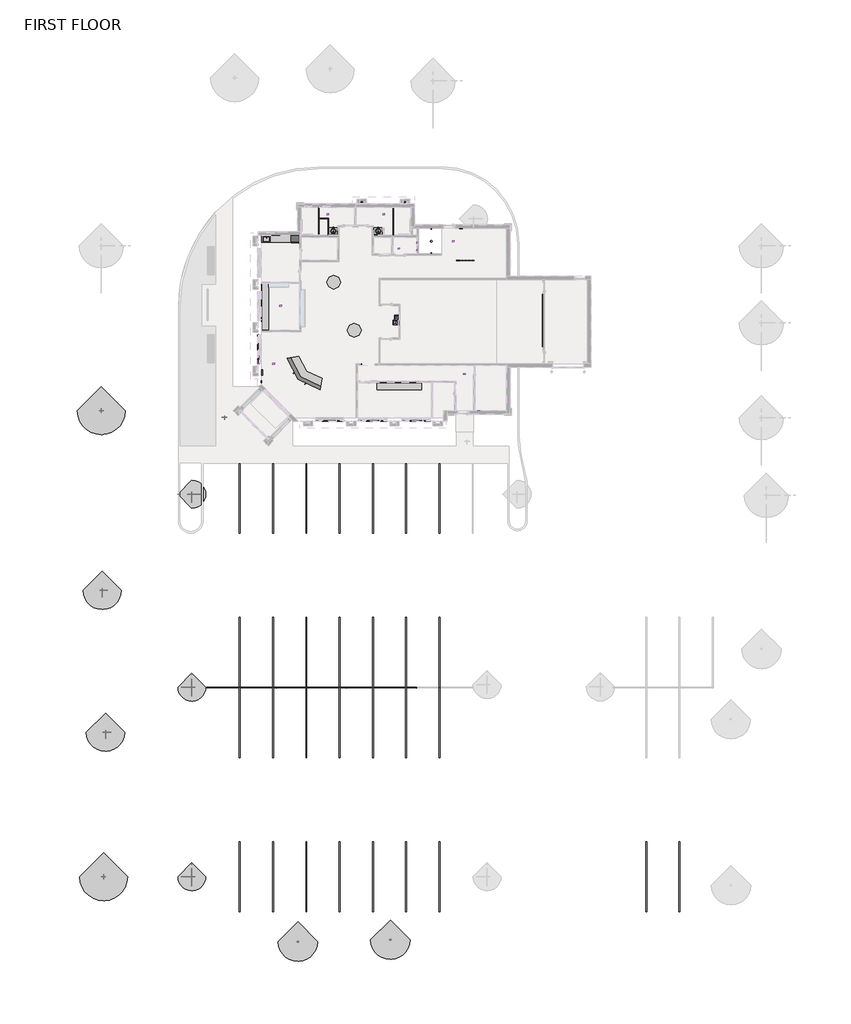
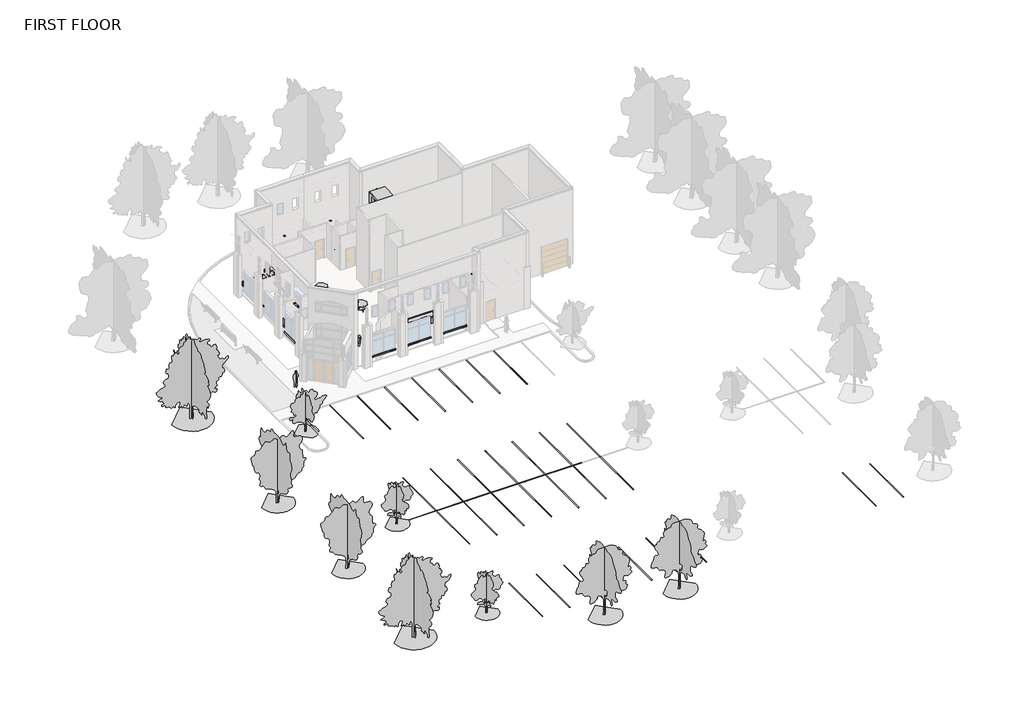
# One storey, part 6 of 7: 42 geographic elements, 15 furniture elements, 15 proxies, 11 alarms, 4 flow terminals, 2 columns, 2 railings.
"""IFC4 building model written with IfcOpenShell, lengths in millimetres."""

from ifc_helpers import new_model, si_unit, point, frame, frame_2d, origin, place, context, project, spatial, polyline, circle_curve, trimmed, segment, composite_curve, outline, extrude, transform, mapped, element, save
from components import alarm_b003a3a8, alarm_15cd_51c740ec, photoelectric_866833d5, pull_station_a674f03b, specialty_equipment_692675cb, default_171b59b4, default_4243144b, elevator_electric_2000_lbs_4744baa0, proxy_52898018, projection_screen_with_parametric_screen_4857_projection_ff3bfefe, rpc_male_28878092, proxy_52aa913c, proxy_4080196a, proxy_b54b38c5, proxy_e74a4aad, proxy_a965dae9, flow_terminal_8a1848b0, flow_terminal_50ef5554, flow_terminal_951b6bfb, furniture_81c1c4d7, furniture_c0b19bce, furniture_e9891702, furniture_2ac01a90, furniture_69c8b165, furniture_e487f748, furniture_dc82221e, curved_reception_counter_short_curved_reception_counter_620d5c6e, pavement_stripe_20_9c478066, pavement_stripe_20_eeeff9bc, rpc_tree_deciduous_honey_locust_25_cc46a1f1, rpc_tree_deciduous_japanese_cherry_15_e499737d, rpc_tree_deciduous_largetooth_aspen_25_f6cd7aa4, rpc_tree_deciduous_red_maple_30_cba750cc, handrail_rectangular_f7c7f1c9, handrail_rectangular_457fed54

model = new_model("IFC4")

# Units and contexts
model_context = context("Model", 3, world=origin())
ifc_project = project(units=[si_unit("LENGTHUNIT", "METRE", prefix="MILLI")], contexts=[model_context])

# Site, building, storey
site = spatial("IfcSite", under=ifc_project)
building = spatial("IfcBuilding", under=site)
storey = spatial("IfcBuildingStorey", under=building, Name="FIRST FLOOR", Elevation=30480.0)

# Alarms
placement = place(None, origin())
alarm_shape = alarm_b003a3a8(model_context)
element("IfcAlarm", 1, ObjectType="FireBIM Tutorial Addressable Module (Wall) : Addressable Input Output", at=placement, inside=storey, context=model_context, shape_type="MappedRepresentation", body=[
    mapped(alarm_shape, transform((-2967.147753, 9258.4260405, 32613.6), x_axis=(0.0, -1.0, 0.0), y_axis=(0.0, 0.0, 1.0), z_axis=(-1.0, 0.0, 0.0))),
])
element("IfcAlarm", 2, ObjectType="FireBIM Tutorial Addressable Module (Wall) : Addressable Input Output", at=placement, inside=storey, context=model_context, shape_type="MappedRepresentation", body=[
    mapped(alarm_shape, transform((-2967.147753, 8613.9010405, 32613.6), x_axis=(0.0, -1.0, 0.0), y_axis=(0.0, 0.0, 1.0), z_axis=(-1.0, 0.0, 0.0))),
])
element("IfcAlarm", 3, ObjectType="FireBIM Tutorial Addressable Module (Wall) : Addressable Input Output", at=placement, inside=storey, context=model_context, shape_type="MappedRepresentation", body=[
    mapped(alarm_shape, transform((2400.189747, -5343.3989595, 32613.6), x_axis=(-1.0, 0.0, 0.0), y_axis=(0.0, 0.0, 1.0), z_axis=(0.0, 1.0, 0.0))),
])
alarm_15cd_shape = alarm_15cd_51c740ec(model_context)
element("IfcAlarm", 4, ObjectType="FireBIM Tutorial Strobe (Ceiling) : 15cd", at=placement, inside=storey, context=model_context, shape_type="MappedRepresentation", body=[
    mapped(alarm_15cd_shape, transform((-14854.347753, 3778.3760405, 33528.0), x_axis=(-1.0, 0.0, 0.0), y_axis=(0.0, 1.0, 0.0), z_axis=(0.0, 0.0, -1.0))),
])
element("IfcAlarm", 5, ObjectType="FireBIM Tutorial Strobe (Ceiling) : 15cd", at=placement, inside=storey, context=model_context, shape_type="MappedRepresentation", body=[
    mapped(alarm_15cd_shape, transform((-10730.022753, 11733.3385405, 33528.0), x_axis=(-1.0, 0.0, 0.0), y_axis=(0.0, 1.0, 0.0), z_axis=(0.0, 0.0, -1.0))),
])
element("IfcAlarm", 6, ObjectType="FireBIM Tutorial Strobe (Ceiling) : 15cd", at=placement, inside=storey, context=model_context, shape_type="MappedRepresentation", body=[
    mapped(alarm_15cd_shape, transform((-5864.335253, 11733.3385405, 33528.0), x_axis=(-1.0, 0.0, 0.0), y_axis=(0.0, 1.0, 0.0), z_axis=(0.0, 0.0, -1.0))),
])
element("IfcAlarm", 7, ObjectType="FireBIM Tutorial Strobe (Ceiling) : 15cd", at=placement, inside=storey, context=model_context, shape_type="MappedRepresentation", body=[
    mapped(alarm_15cd_shape, transform((1147.652247, -2154.1114595, 33528.0), x_axis=(-1.0, 0.0, 0.0), y_axis=(0.0, 1.0, 0.0), z_axis=(0.0, 0.0, -1.0))),
])
photoelectric_shape = photoelectric_866833d5(model_context)
element("IfcAlarm", 8, ObjectType="FireBIM Tutorial Smoke Detector (Ceiling) : Photoelectric", at=placement, inside=storey, context=model_context, shape_type="MappedRepresentation", body=[
    mapped(photoelectric_shape, transform((-4564.172753, 8753.6010405, 33528.0), x_axis=(-1.0, 0.0, 0.0), y_axis=(0.0, 1.0, 0.0), z_axis=(0.0, 0.0, -1.0))),
])
element("IfcAlarm", 9, ObjectType="FireBIM Tutorial Smoke Detector (Ceiling) : Photoelectric", at=placement, inside=storey, context=model_context, shape_type="MappedRepresentation", body=[
    mapped(photoelectric_shape, transform((168.164747, 9388.6010405, 34290.0), x_axis=(-1.0, 0.0, 0.0), y_axis=(0.0, 1.0, 0.0), z_axis=(0.0, 0.0, -1.0))),
])
element("IfcAlarm", 10, ObjectType="FireBIM Tutorial Smoke Detector (Ceiling) : Photoelectric", at=placement, inside=storey, context=model_context, shape_type="MappedRepresentation", body=[
    mapped(photoelectric_shape, transform((-15452.835253, -1279.3989595, 34290.0), x_axis=(-1.0, 0.0, 0.0), y_axis=(0.0, 1.0, 0.0), z_axis=(0.0, 0.0, -1.0))),
])
pull_station_shape = pull_station_a674f03b(model_context)
element("IfcAlarm", 11, ObjectType="FireBIM Tutorial Manual Fire Alarm Box (Wall) : Pull Station", at=placement, inside=storey, context=model_context, shape_type="MappedRepresentation", body=[
    mapped(pull_station_shape, transform((-16519.635253, -2825.6239595, 31623.0), x_axis=(0.0, 1.0, 0.0), y_axis=(0.0, 0.0, 1.0), z_axis=(1.0, 0.0, 0.0))),
])

# Proxies
specialty_equipment_shape = specialty_equipment_692675cb(model_context)
element("IfcBuildingElementProxy", 12, Name="Refridgerator_with_freezer_on_top_198 : Refridgerator_with_freezer_on_top_198", ObjectType="Refridgerator_with_freezer_on_top_198 : Refridgerator_with_freezer_on_top_198", at=placement, inside=storey, context=model_context, shape_type="MappedRepresentation", body=[
    mapped(specialty_equipment_shape, transform((-13951.060253, 9896.6010405, 30480.0), x_axis=(0.0, -1.0000000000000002, 0.0), y_axis=(1.0000000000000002, 0.0, 0.0), z_axis=(0.0, 0.0, 1.0))),
])
default_shape = default_171b59b4(model_context)
element("IfcBuildingElementProxy", 13, Name="FireBIM Tutorial Control Unit : Default", ObjectType="FireBIM Tutorial Control Unit : Default", at=placement, inside=storey, context=model_context, shape_type="MappedRepresentation", body=[
    mapped(default_shape, transform((-16519.635253, -2025.5239595, 31699.2), x_axis=(0.0, 1.0, 0.0), y_axis=(0.0, 0.0, 1.0), z_axis=(1.0, 0.0, 0.0))),
])
default_2_shape = default_4243144b(model_context)
element("IfcBuildingElementProxy", 14, Name="FireBIM Tutorial Annunciator : Default", ObjectType="FireBIM Tutorial Annunciator : Default", at=placement, inside=storey, context=model_context, shape_type="MappedRepresentation", body=[
    mapped(default_2_shape, transform((828.564747, 10506.2010405, 31699.2), x_axis=(1.0, 0.0, 0.0), y_axis=(0.0, 0.0, 1.0), z_axis=(0.0, -1.0, 0.0))),
])
elevator_electric_2000_lbs_shape = elevator_electric_2000_lbs_4744baa0(model_context)
element("IfcBuildingElementProxy", 15, Name="Elevator-Electric : 2000 lbs", ObjectType="Elevator-Electric : 2000 lbs", at=placement, inside=storey, context=model_context, shape_type="MappedRepresentation", body=[
    mapped(elevator_electric_2000_lbs_shape, transform((-1688.8570793, 9381.154044, 30480.0), x_axis=(0.0, 1.0, 0.0), y_axis=(-1.0, 0.0, 0.0), z_axis=(0.0, 0.0, 1.0))),
])
proxy_shape = proxy_52898018(model_context)
element("IfcBuildingElementProxy", 16, Name="Opening-Cased : 48\" x 84\"", ObjectType="Opening-Cased : 48\" x 84\"", at=placement, inside=storey, context=model_context, shape_type="MappedRepresentation", body=[
    mapped(proxy_shape, transform((-7222.9840963, -1341.3114595, 30480.0), x_axis=(1.0, 0.0, 0.0), y_axis=(0.0, 1.0, 0.0), z_axis=(0.0, 0.0, 1.0))),
])
projection_screen_with_parametric_screen_4857_projection_shape = projection_screen_with_parametric_screen_4857_projection_ff3bfefe(model_context)
element("IfcBuildingElementProxy", 17, Name="Projection_Screen_with_parametric_screen_4857 : Projection_Screen_with_parametric_screen_4857", ObjectType="Projection_Screen_with_parametric_screen_4857 : Projection_Screen_with_parametric_screen_4857", at=placement, inside=storey, context=model_context, shape_type="MappedRepresentation", body=[
    mapped(projection_screen_with_parametric_screen_4857_projection_shape, transform((7889.4315444, 2505.2010405, 30632.4), x_axis=(0.0, 1.0, 0.0), y_axis=(-1.0, 0.0, 0.0), z_axis=(0.0, 0.0, 1.0))),
])
rpc_male_shape = rpc_male_28878092(model_context)
element("IfcBuildingElementProxy", 18, Name="RPC Male : Dwayne", ObjectType="RPC Male : Dwayne", at=placement, inside=storey, context=model_context, shape_type="MappedRepresentation", body=[
    mapped(rpc_male_shape, transform((-19742.3830365, -5937.1239595, 30480.0), x_axis=(1.0, 0.0, 0.0), y_axis=(0.0, 1.0, 0.0), z_axis=(0.0, 0.0, 1.0))),
])
proxy_2_shape = proxy_52aa913c(model_context)
element("IfcBuildingElementProxy", 19, Name="Stone Sill : 2' x 8\" x 3 5/8\" Deep", ObjectType="Stone Sill : 2' x 8\" x 3 5/8\" Deep", at=placement, inside=storey, context=model_context, shape_type="MappedRepresentation", body=[
    mapped(proxy_2_shape, transform((-16673.80834, -1538.0040395, 33419.5320312), x_axis=(0.0, 1.0, 0.0), y_axis=(-1.0, 0.0, 0.0), z_axis=(0.0, 0.0, 1.0))),
])
proxy_3_shape = proxy_4080196a(model_context)
element("IfcBuildingElementProxy", 20, Name="Stone Sill : 4' x 8\" x 3 5/8\" Deep", ObjectType="Stone Sill : 4' x 8\" x 3 5/8\" Deep", at=placement, inside=storey, context=model_context, shape_type="MappedRepresentation", body=[
    mapped(proxy_3_shape, transform((-16673.80834, -623.5989595, 29101.5320313), x_axis=(0.0, 1.0, 0.0), y_axis=(-1.0, 0.0, 0.0), z_axis=(0.0, 0.0, 1.0))),
])
element("IfcBuildingElementProxy", 21, Name="Stone Sill : 4' x 8\" x 3 5/8\" Deep", ObjectType="Stone Sill : 4' x 8\" x 3 5/8\" Deep", at=placement, inside=storey, context=model_context, shape_type="MappedRepresentation", body=[
    mapped(proxy_3_shape, transform((-9961.835253, -6107.1720464, 29100.7382813), x_axis=(-1.0, 0.0, 0.0), y_axis=(0.0, -1.0, 0.0), z_axis=(0.0, 0.0, 1.0))),
])
element("IfcBuildingElementProxy", 22, Name="Stone Sill : 4' x 8\" x 3 5/8\" Deep", ObjectType="Stone Sill : 4' x 8\" x 3 5/8\" Deep", at=placement, inside=storey, context=model_context, shape_type="MappedRepresentation", body=[
    mapped(proxy_3_shape, transform((-6202.645413, -6107.1720464, 29100.7382813), x_axis=(-1.0, 0.0, 0.0), y_axis=(0.0, -1.0, 0.0), z_axis=(0.0, 0.0, 1.0))),
])
element("IfcBuildingElementProxy", 23, Name="Stone Sill : 4' x 8\" x 3 5/8\" Deep", ObjectType="Stone Sill : 4' x 8\" x 3 5/8\" Deep", at=placement, inside=storey, context=model_context, shape_type="MappedRepresentation", body=[
    mapped(proxy_3_shape, transform((-2443.445413, -6107.1720464, 29100.7382813), x_axis=(-1.0, 0.0, 0.0), y_axis=(0.0, -1.0, 0.0), z_axis=(0.0, 0.0, 1.0))),
])
proxy_4_shape = proxy_b54b38c5(model_context)
element("IfcBuildingElementProxy", 24, Name="Toilet Stall-Accessible-Side2-3D : 60\" x 96\" Clear", ObjectType="Toilet Stall-Accessible-Side2-3D : 60\" x 96\" Clear", at=placement, inside=storey, context=model_context, shape_type="MappedRepresentation", body=[
    mapped(proxy_4_shape, transform((-12203.1320992, 9820.4010405, 30480.0), x_axis=(-1.0, 0.0, 0.0), y_axis=(0.0, -1.0, 0.0), z_axis=(0.0, 0.0, 1.0))),
])
proxy_5_shape = proxy_e74a4aad(model_context)
element("IfcBuildingElementProxy", 25, Name="Toilet Stall-Accessible-Side2-3D : 60\" x 96\" Clear", ObjectType="Toilet Stall-Accessible-Side2-3D : 60\" x 96\" Clear", at=placement, inside=storey, context=model_context, shape_type="MappedRepresentation", body=[
    mapped(proxy_5_shape, transform((-4376.9384068, 9820.4010405, 30480.0), x_axis=(1.0, 0.0, 0.0), y_axis=(0.0, 1.0, 0.0), z_axis=(0.0, 0.0, 1.0))),
])
proxy_6_shape = proxy_a965dae9(model_context)
element("IfcBuildingElementProxy", 26, Name="Toilet Stall-Braced-3D : 32\" x 56\" Clear", ObjectType="Toilet Stall-Braced-3D : 32\" x 56\" Clear", at=placement, inside=storey, context=model_context, shape_type="MappedRepresentation", body=[
    mapped(proxy_6_shape, transform((-10704.5320992, 9820.4010405, 30480.0), x_axis=(-1.0, 0.0, 0.0), y_axis=(0.0, -1.0, 0.0), z_axis=(0.0, 0.0, 1.0))),
])

# Columns
element("IfcColumn", 27, ObjectType="HSS-Hollow Structural Section-Column : HSS6X6X1/2", at=placement, inside=storey, context=model_context, shape_type="SweptSolid", body=[
    extrude(outline(composite_curve([segment(trimmed(circle_curve(frame_2d((-7834.5907105, 12688.815103)), 23.6140625), [point((-7834.5907105, 12665.2010405))], [point((-7858.204773, 12688.815103))], False, "CARTESIAN"), True, "CONTINUOUS"), segment(polyline([(-7858.204773, 12688.815103), (-7858.204773, 12793.986978)]), True, "CONTINUOUS"), segment(trimmed(circle_curve(frame_2d((-7834.5907105, 12793.986978)), 23.6140625), [point((-7858.204773, 12793.986978))], [point((-7834.5907105, 12817.6010405))], False, "CARTESIAN"), True, "CONTINUOUS"), segment(polyline([(-7834.5907105, 12817.6010405), (-7729.4188355, 12817.6010405)]), True, "CONTINUOUS"), segment(trimmed(circle_curve(frame_2d((-7729.4188355, 12793.986978)), 23.6140625), [point((-7729.4188355, 12817.6010405))], [point((-7705.804773, 12793.986978))], False, "CARTESIAN"), True, "CONTINUOUS"), segment(polyline([(-7705.804773, 12793.986978), (-7705.804773, 12688.815103)]), True, "CONTINUOUS"), segment(trimmed(circle_curve(frame_2d((-7729.4188355, 12688.815103)), 23.6140625), [point((-7705.804773, 12688.815103))], [point((-7729.4188355, 12665.2010405))], False, "CARTESIAN"), True, "CONTINUOUS"), segment(polyline([(-7729.4188355, 12665.2010405), (-7834.5907105, 12665.2010405)]), True, "CONTINUOUS")], self_intersect=False), holes=[composite_curve([segment(polyline([(-7834.5907105, 12677.0080718), (-7729.4188355, 12677.0080718)]), True, "CONTINUOUS"), segment(trimmed(circle_curve(frame_2d((-7729.4188355, 12688.815103)), 11.8070313), [point((-7729.4188355, 12677.0080718))], [point((-7717.6118043, 12688.815103))], True, "CARTESIAN"), True, "CONTINUOUS"), segment(polyline([(-7717.6118043, 12688.815103), (-7717.6118043, 12793.986978)]), True, "CONTINUOUS"), segment(trimmed(circle_curve(frame_2d((-7729.4188355, 12793.986978)), 11.8070313), [point((-7717.6118043, 12793.986978))], [point((-7729.4188355, 12805.7940093))], True, "CARTESIAN"), True, "CONTINUOUS"), segment(polyline([(-7729.4188355, 12805.7940093), (-7834.5907105, 12805.7940093)]), True, "CONTINUOUS"), segment(trimmed(circle_curve(frame_2d((-7834.5907105, 12793.986978)), 11.8070312), [point((-7834.5907105, 12805.7940093))], [point((-7846.3977418, 12793.986978))], True, "CARTESIAN"), True, "CONTINUOUS"), segment(polyline([(-7846.3977418, 12793.986978), (-7846.3977418, 12688.815103)]), True, "CONTINUOUS"), segment(trimmed(circle_curve(frame_2d((-7834.5907105, 12688.815103)), 11.8070312), [point((-7846.3977418, 12688.815103))], [point((-7834.5907105, 12677.0080718))], True, "CARTESIAN"), True, "CONTINUOUS")], self_intersect=False)]), frame((0.0, 0.0, 30480.0), z_axis=(0.0, 0.0, 1.0), x_axis=(1.0, 0.0, 0.0)), (0.0, 0.0, 1.0), 6553.2),
])
element("IfcColumn", 28, ObjectType="HSS-Hollow Structural Section-Column : HSS6X6X1/2", at=placement, inside=storey, context=model_context, shape_type="SweptSolid", body=[
    extrude(outline(composite_curve([segment(trimmed(circle_curve(frame_2d((-4075.3907105, 12688.815103)), 23.6140625), [point((-4075.3907105, 12665.2010405))], [point((-4099.004773, 12688.815103))], False, "CARTESIAN"), True, "CONTINUOUS"), segment(polyline([(-4099.004773, 12688.815103), (-4099.004773, 12793.986978)]), True, "CONTINUOUS"), segment(trimmed(circle_curve(frame_2d((-4075.3907105, 12793.986978)), 23.6140625), [point((-4099.004773, 12793.986978))], [point((-4075.3907105, 12817.6010405))], False, "CARTESIAN"), True, "CONTINUOUS"), segment(polyline([(-4075.3907105, 12817.6010405), (-3970.2188355, 12817.6010405)]), True, "CONTINUOUS"), segment(trimmed(circle_curve(frame_2d((-3970.2188355, 12793.986978)), 23.6140625), [point((-3970.2188355, 12817.6010405))], [point((-3946.604773, 12793.986978))], False, "CARTESIAN"), True, "CONTINUOUS"), segment(polyline([(-3946.604773, 12793.986978), (-3946.604773, 12688.815103)]), True, "CONTINUOUS"), segment(trimmed(circle_curve(frame_2d((-3970.2188355, 12688.815103)), 23.6140625), [point((-3946.604773, 12688.815103))], [point((-3970.2188355, 12665.2010405))], False, "CARTESIAN"), True, "CONTINUOUS"), segment(polyline([(-3970.2188355, 12665.2010405), (-4075.3907105, 12665.2010405)]), True, "CONTINUOUS")], self_intersect=False), holes=[composite_curve([segment(polyline([(-4075.3907105, 12677.0080718), (-3970.2188355, 12677.0080718)]), True, "CONTINUOUS"), segment(trimmed(circle_curve(frame_2d((-3970.2188355, 12688.815103)), 11.8070313), [point((-3970.2188355, 12677.0080718))], [point((-3958.4118043, 12688.815103))], True, "CARTESIAN"), True, "CONTINUOUS"), segment(polyline([(-3958.4118043, 12688.815103), (-3958.4118043, 12793.986978)]), True, "CONTINUOUS"), segment(trimmed(circle_curve(frame_2d((-3970.2188355, 12793.986978)), 11.8070313), [point((-3958.4118043, 12793.986978))], [point((-3970.2188355, 12805.7940093))], True, "CARTESIAN"), True, "CONTINUOUS"), segment(polyline([(-3970.2188355, 12805.7940093), (-4075.3907105, 12805.7940093)]), True, "CONTINUOUS"), segment(trimmed(circle_curve(frame_2d((-4075.3907105, 12793.986978)), 11.8070312), [point((-4075.3907105, 12805.7940093))], [point((-4087.1977418, 12793.986978))], True, "CARTESIAN"), True, "CONTINUOUS"), segment(polyline([(-4087.1977418, 12793.986978), (-4087.1977418, 12688.815103)]), True, "CONTINUOUS"), segment(trimmed(circle_curve(frame_2d((-4075.3907105, 12688.815103)), 11.8070312), [point((-4087.1977418, 12688.815103))], [point((-4075.3907105, 12677.0080718))], True, "CARTESIAN"), True, "CONTINUOUS")], self_intersect=False)]), frame((0.0, 0.0, 30480.0), z_axis=(0.0, 0.0, 1.0), x_axis=(1.0, 0.0, 0.0)), (0.0, 0.0, 1.0), 6553.2),
])

# Flow terminals
flow_terminal_shape = flow_terminal_8a1848b0(model_context)
element("IfcFlowTerminal", 29, ObjectType="Drinking Fountain-Hi-Lo-3D : Drinking Fountain-Hi-Lo-3D", at=placement, inside=storey, context=model_context, shape_type="MappedRepresentation", body=[
    mapped(flow_terminal_shape, transform((-4502.260253, 2508.9574863, 30480.0), x_axis=(0.0, -1.0, 0.0), y_axis=(1.0, 0.0, 0.0), z_axis=(0.0, 0.0, 1.0))),
])
flow_terminal_2_shape = flow_terminal_50ef5554(model_context)
element("IfcFlowTerminal", 30, ObjectType="Sink Kitchen-Single : 24\" x 21\"", at=placement, inside=storey, context=model_context, shape_type="MappedRepresentation", body=[
    mapped(flow_terminal_2_shape, transform((-16090.8244936, 9598.9501594, 30480.0), x_axis=(1.0000000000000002, 0.0, 0.0), y_axis=(0.0, 1.0000000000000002, 0.0), z_axis=(0.0, 0.0, 1.0))),
])
flow_terminal_3_shape = flow_terminal_951b6bfb(model_context)
element("IfcFlowTerminal", 31, ObjectType="Sink Vanity-Round : 19\" x 19\"", at=placement, inside=storey, context=model_context, shape_type="MappedRepresentation", body=[
    mapped(flow_terminal_3_shape, transform((-10355.1808265, 10338.1331785, 30480.0), x_axis=(1.0000000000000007, 0.0, 0.0), y_axis=(0.0, 1.0000000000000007, 0.0), z_axis=(0.0, 0.0, 1.0))),
])
element("IfcFlowTerminal", 32, ObjectType="Sink Vanity-Round : 19\" x 19\"", at=placement, inside=storey, context=model_context, shape_type="MappedRepresentation", body=[
    mapped(flow_terminal_3_shape, transform((-6453.1058265, 10338.1331785, 30480.0), x_axis=(1.0000000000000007, 0.0, 0.0), y_axis=(0.0, 1.0000000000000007, 0.0), z_axis=(0.0, 0.0, 1.0))),
])

# Furniture
furniture_shape = furniture_81c1c4d7(model_context)
element("IfcFurniture", 33, ObjectType="Base Cabinet-Double Door & 2 Drawer : 30\"", at=placement, inside=storey, context=model_context, shape_type="MappedRepresentation", body=[
    mapped(furniture_shape, transform((-4484.8381257, -2898.6489595, 30480.0), x_axis=(-1.0, 0.0, 0.0), y_axis=(0.0, -1.0, 0.0), z_axis=(0.0, 0.0, 1.0))),
])
element("IfcFurniture", 34, ObjectType="Base Cabinet-Double Door & 2 Drawer : 30\"", at=placement, inside=storey, context=model_context, shape_type="MappedRepresentation", body=[
    mapped(furniture_shape, transform((-5246.8381257, -2898.6489595, 30480.0), x_axis=(-1.0, 0.0, 0.0), y_axis=(0.0, -1.0, 0.0), z_axis=(0.0, 0.0, 1.0))),
])
element("IfcFurniture", 35, ObjectType="Base Cabinet-Double Door & 2 Drawer : 30\"", at=placement, inside=storey, context=model_context, shape_type="MappedRepresentation", body=[
    mapped(furniture_shape, transform((-6008.8381257, -2898.6489595, 30480.0), x_axis=(-1.0, 0.0, 0.0), y_axis=(0.0, -1.0, 0.0), z_axis=(0.0, 0.0, 1.0))),
])
element("IfcFurniture", 36, ObjectType="Base Cabinet-Double Door & 2 Drawer : 30\"", at=placement, inside=storey, context=model_context, shape_type="MappedRepresentation", body=[
    mapped(furniture_shape, transform((-2960.8381257, -2898.6489595, 30480.0), x_axis=(-1.0, 0.0, 0.0), y_axis=(0.0, -1.0, 0.0), z_axis=(0.0, 0.0, 1.0))),
])
element("IfcFurniture", 37, ObjectType="Base Cabinet-Double Door & 2 Drawer : 30\"", at=placement, inside=storey, context=model_context, shape_type="MappedRepresentation", body=[
    mapped(furniture_shape, transform((-3722.8381257, -2898.6489595, 30480.0), x_axis=(-1.0, 0.0, 0.0), y_axis=(0.0, -1.0, 0.0), z_axis=(0.0, 0.0, 1.0))),
])
furniture_2_shape = furniture_c0b19bce(model_context)
element("IfcFurniture", 38, ObjectType="Counter Top : 24\" Depth", at=placement, inside=storey, context=model_context, shape_type="MappedRepresentation", body=[
    mapped(furniture_2_shape, transform((-15319.1729579, 9906.1260405, 30480.0), x_axis=(1.0000000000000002, 0.0, 0.0), y_axis=(0.0, 1.0000000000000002, 0.0), z_axis=(0.0, 0.0, 1.0))),
])
furniture_3_shape = furniture_e9891702(model_context)
element("IfcFurniture", 39, ObjectType="Counter Top : 24\" Depth", at=placement, inside=storey, context=model_context, shape_type="MappedRepresentation", body=[
    mapped(furniture_3_shape, transform((-16519.635253, 2845.2383356, 30480.0), x_axis=(0.0, 1.0, 0.0), y_axis=(-1.0, 0.0, 0.0), z_axis=(0.0, 0.0, 1.0))),
])
furniture_4_shape = furniture_2ac01a90(model_context)
element("IfcFurniture", 40, ObjectType="Counter Top : 24\" Depth", at=placement, inside=storey, context=model_context, shape_type="MappedRepresentation", body=[
    mapped(furniture_4_shape, transform((-3777.6700444, -2898.6489595, 30480.0), x_axis=(-1.0, 0.0, 0.0), y_axis=(0.0, -1.0, 0.0), z_axis=(0.0, 0.0, 1.0))),
])
furniture_5_shape = furniture_69c8b165(model_context)
element("IfcFurniture", 41, ObjectType="Table-Dining Round w Chairs : 48\" Diameter", at=placement, inside=storey, context=model_context, shape_type="MappedRepresentation", body=[
    mapped(furniture_5_shape, transform((-10423.332589, 5890.0157928, 30480.0), x_axis=(0.7071067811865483, 0.7071067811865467, 0.0), y_axis=(-0.7071067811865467, 0.7071067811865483, 0.0), z_axis=(0.0, 0.0, 1.0))),
])
element("IfcFurniture", 42, ObjectType="Table-Dining Round w Chairs : 48\" Diameter", at=placement, inside=storey, context=model_context, shape_type="MappedRepresentation", body=[
    mapped(furniture_5_shape, transform((-8640.1284495, 1714.8806328, 30480.0), x_axis=(0.7071067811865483, 0.7071067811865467, 0.0), y_axis=(-0.7071067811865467, 0.7071067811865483, 0.0), z_axis=(0.0, 0.0, 1.0))),
])
furniture_6_shape = furniture_e487f748(model_context)
element("IfcFurniture", 43, ObjectType="Vanity Cabinet-Double Door Sink Unit : 30\"", at=placement, inside=storey, context=model_context, shape_type="MappedRepresentation", body=[
    mapped(furniture_6_shape, transform((-10277.2667909, 9947.2228342, 30480.0), x_axis=(1.0000000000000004, 0.0, 0.0), y_axis=(0.0, 1.0000000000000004, 0.0), z_axis=(0.0, 0.0, 1.0))),
])
element("IfcFurniture", 44, ObjectType="Vanity Cabinet-Double Door Sink Unit : 30\"", at=placement, inside=storey, context=model_context, shape_type="MappedRepresentation", body=[
    mapped(furniture_6_shape, transform((-6375.1917909, 9947.2228342, 30480.0), x_axis=(1.0000000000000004, 0.0, 0.0), y_axis=(0.0, 1.0000000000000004, 0.0), z_axis=(0.0, 0.0, 1.0))),
])
furniture_7_shape = furniture_dc82221e(model_context)
element("IfcFurniture", 45, ObjectType="Vanity Counter Top w Round Sink Hole : 24\" Depth", at=placement, inside=storey, context=model_context, shape_type="MappedRepresentation", body=[
    mapped(furniture_7_shape, transform((-9350.1729579, 9912.4760405, 30480.0), x_axis=(1.0000000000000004, 0.0, 0.0), y_axis=(0.0, 1.0000000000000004, 0.0), z_axis=(0.0, 0.0, 1.0))),
])
element("IfcFurniture", 46, ObjectType="Vanity Counter Top w Round Sink Hole : 24\" Depth", at=placement, inside=storey, context=model_context, shape_type="MappedRepresentation", body=[
    mapped(furniture_7_shape, transform((-5448.0979579, 9912.4760405, 30480.0), x_axis=(1.0000000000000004, 0.0, 0.0), y_axis=(0.0, 1.0000000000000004, 0.0), z_axis=(0.0, 0.0, 1.0))),
])
curved_reception_counter_short_curved_reception_counter_shape = curved_reception_counter_short_curved_reception_counter_620d5c6e(model_context)
element("IfcFurniture", 47, ObjectType="curved_reception_counter_short : curved_reception_counter_short", at=placement, inside=storey, context=model_context, shape_type="MappedRepresentation", body=[
    mapped(curved_reception_counter_short_curved_reception_counter_shape, transform((-13352.7157986, -2295.3989595, 30480.0), x_axis=(0.9848077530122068, -0.17364817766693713, 0.0), y_axis=(0.17364817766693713, 0.9848077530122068, 0.0), z_axis=(0.0, 0.0, 1.0))),
])

# Geographic elements
pavement_stripe_20_shape = pavement_stripe_20_9c478066(model_context)
element("IfcGeographicElement", 48, ObjectType="Pavement Stripe : 20'", at=placement, inside=storey, context=model_context, shape_type="MappedRepresentation", body=[
    mapped(pavement_stripe_20_shape, transform((-19664.4222217, -10778.9989595, 30327.6), x_axis=(1.0, 0.0, 0.0), y_axis=(0.0, 1.0, 0.0), z_axis=(0.0, 0.0, 1.0))),
])
element("IfcGeographicElement", 49, ObjectType="Pavement Stripe : 20'", at=placement, inside=storey, context=model_context, shape_type="MappedRepresentation", body=[
    mapped(pavement_stripe_20_shape, transform((-16768.826961, -10778.9989595, 30327.6), x_axis=(1.0, 0.0, 0.0), y_axis=(0.0, 1.0, 0.0), z_axis=(0.0, 0.0, 1.0))),
])
element("IfcGeographicElement", 50, ObjectType="Pavement Stripe : 20'", at=placement, inside=storey, context=model_context, shape_type="MappedRepresentation", body=[
    mapped(pavement_stripe_20_shape, transform((-13873.2269603, -10778.9989595, 30327.6), x_axis=(1.0, 0.0, 0.0), y_axis=(0.0, 1.0, 0.0), z_axis=(0.0, 0.0, 1.0))),
])
element("IfcGeographicElement", 51, ObjectType="Pavement Stripe : 20'", at=placement, inside=storey, context=model_context, shape_type="MappedRepresentation", body=[
    mapped(pavement_stripe_20_shape, transform((-10977.6269597, -10778.9989595, 30327.6), x_axis=(1.0, 0.0, 0.0), y_axis=(0.0, 1.0, 0.0), z_axis=(0.0, 0.0, 1.0))),
])
element("IfcGeographicElement", 52, ObjectType="Pavement Stripe : 20'", at=placement, inside=storey, context=model_context, shape_type="MappedRepresentation", body=[
    mapped(pavement_stripe_20_shape, transform((-8082.026959, -10778.9989595, 30327.6), x_axis=(1.0, 0.0, 0.0), y_axis=(0.0, 1.0, 0.0), z_axis=(0.0, 0.0, 1.0))),
])
element("IfcGeographicElement", 53, ObjectType="Pavement Stripe : 20'", at=placement, inside=storey, context=model_context, shape_type="MappedRepresentation", body=[
    mapped(pavement_stripe_20_shape, transform((-5186.4269584, -10778.9989595, 30327.6), x_axis=(1.0, 0.0, 0.0), y_axis=(0.0, 1.0, 0.0), z_axis=(0.0, 0.0, 1.0))),
])
element("IfcGeographicElement", 54, ObjectType="Pavement Stripe : 20'", at=placement, inside=storey, context=model_context, shape_type="MappedRepresentation", body=[
    mapped(pavement_stripe_20_shape, transform((-2290.8269578, -10778.9989595, 30327.6), x_axis=(1.0, 0.0, 0.0), y_axis=(0.0, 1.0, 0.0), z_axis=(0.0, 0.0, 1.0))),
])
element("IfcGeographicElement", 55, ObjectType="Pavement Stripe : 20'", at=placement, inside=storey, context=model_context, shape_type="MappedRepresentation", body=[
    mapped(pavement_stripe_20_shape, transform((-19664.4222217, -30286.1989595, 30327.6), x_axis=(1.0, 0.0, 0.0), y_axis=(0.0, 1.0, 0.0), z_axis=(0.0, 0.0, 1.0))),
])
element("IfcGeographicElement", 56, ObjectType="Pavement Stripe : 20'", at=placement, inside=storey, context=model_context, shape_type="MappedRepresentation", body=[
    mapped(pavement_stripe_20_shape, transform((-16768.826961, -30286.1989595, 30327.6), x_axis=(1.0, 0.0, 0.0), y_axis=(0.0, 1.0, 0.0), z_axis=(0.0, 0.0, 1.0))),
])
element("IfcGeographicElement", 57, ObjectType="Pavement Stripe : 20'", at=placement, inside=storey, context=model_context, shape_type="MappedRepresentation", body=[
    mapped(pavement_stripe_20_shape, transform((-13873.2269603, -30286.1989595, 30327.6), x_axis=(1.0, 0.0, 0.0), y_axis=(0.0, 1.0, 0.0), z_axis=(0.0, 0.0, 1.0))),
])
element("IfcGeographicElement", 58, ObjectType="Pavement Stripe : 20'", at=placement, inside=storey, context=model_context, shape_type="MappedRepresentation", body=[
    mapped(pavement_stripe_20_shape, transform((-10977.6269597, -30286.1989595, 30327.6), x_axis=(1.0, 0.0, 0.0), y_axis=(0.0, 1.0, 0.0), z_axis=(0.0, 0.0, 1.0))),
])
element("IfcGeographicElement", 59, ObjectType="Pavement Stripe : 20'", at=placement, inside=storey, context=model_context, shape_type="MappedRepresentation", body=[
    mapped(pavement_stripe_20_shape, transform((-8082.026959, -30286.1989595, 30327.6), x_axis=(1.0, 0.0, 0.0), y_axis=(0.0, 1.0, 0.0), z_axis=(0.0, 0.0, 1.0))),
])
element("IfcGeographicElement", 60, ObjectType="Pavement Stripe : 20'", at=placement, inside=storey, context=model_context, shape_type="MappedRepresentation", body=[
    mapped(pavement_stripe_20_shape, transform((-5186.4269584, -30286.1989595, 30327.6), x_axis=(1.0, 0.0, 0.0), y_axis=(0.0, 1.0, 0.0), z_axis=(0.0, 0.0, 1.0))),
])
element("IfcGeographicElement", 61, ObjectType="Pavement Stripe : 20'", at=placement, inside=storey, context=model_context, shape_type="MappedRepresentation", body=[
    mapped(pavement_stripe_20_shape, transform((-2290.8269578, -30286.1989595, 30327.6), x_axis=(1.0, 0.0, 0.0), y_axis=(0.0, 1.0, 0.0), z_axis=(0.0, 0.0, 1.0))),
])
pavement_stripe_20_2_shape = pavement_stripe_20_eeeff9bc(model_context)
element("IfcGeographicElement", 62, ObjectType="Pavement Stripe : 20'", at=placement, inside=storey, context=model_context, shape_type="MappedRepresentation", body=[
    mapped(pavement_stripe_20_2_shape, transform((-19664.3859529, -28558.4691789, 30327.6), x_axis=(0.9999999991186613, -4.198425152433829e-05, 0.0), y_axis=(4.198425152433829e-05, 0.9999999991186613, 0.0), z_axis=(0.0, 0.0, 1.0))),
])
element("IfcGeographicElement", 63, ObjectType="Pavement Stripe : 20'", at=placement, inside=storey, context=model_context, shape_type="MappedRepresentation", body=[
    mapped(pavement_stripe_20_2_shape, transform((-16768.7906948, -28558.5907483, 30327.6), x_axis=(0.9999999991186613, -4.198425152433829e-05, 0.0), y_axis=(4.198425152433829e-05, 0.9999999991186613, 0.0), z_axis=(0.0, 0.0, 1.0))),
])
element("IfcGeographicElement", 64, ObjectType="Pavement Stripe : 20'", at=placement, inside=storey, context=model_context, shape_type="MappedRepresentation", body=[
    mapped(pavement_stripe_20_2_shape, transform((-13873.1906967, -28558.7123179, 30327.6), x_axis=(0.9999999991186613, -4.198425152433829e-05, 0.0), y_axis=(4.198425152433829e-05, 0.9999999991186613, 0.0), z_axis=(0.0, 0.0, 1.0))),
])
element("IfcGeographicElement", 65, ObjectType="Pavement Stripe : 20'", at=placement, inside=storey, context=model_context, shape_type="MappedRepresentation", body=[
    mapped(pavement_stripe_20_2_shape, transform((-10977.5906986, -28558.8338875, 30327.6), x_axis=(0.9999999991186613, -4.198425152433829e-05, 0.0), y_axis=(4.198425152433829e-05, 0.9999999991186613, 0.0), z_axis=(0.0, 0.0, 1.0))),
])
element("IfcGeographicElement", 66, ObjectType="Pavement Stripe : 20'", at=placement, inside=storey, context=model_context, shape_type="MappedRepresentation", body=[
    mapped(pavement_stripe_20_2_shape, transform((-8081.9907005, -28558.9554571, 30327.6), x_axis=(0.9999999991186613, -4.198425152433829e-05, 0.0), y_axis=(4.198425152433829e-05, 0.9999999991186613, 0.0), z_axis=(0.0, 0.0, 1.0))),
])
element("IfcGeographicElement", 67, ObjectType="Pavement Stripe : 20'", at=placement, inside=storey, context=model_context, shape_type="MappedRepresentation", body=[
    mapped(pavement_stripe_20_2_shape, transform((-5186.3907024, -28559.0770267, 30327.6), x_axis=(0.9999999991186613, -4.198425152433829e-05, 0.0), y_axis=(4.198425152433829e-05, 0.9999999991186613, 0.0), z_axis=(0.0, 0.0, 1.0))),
])
element("IfcGeographicElement", 68, ObjectType="Pavement Stripe : 20'", at=placement, inside=storey, context=model_context, shape_type="MappedRepresentation", body=[
    mapped(pavement_stripe_20_2_shape, transform((-2290.7907044, -28559.1985963, 30327.6), x_axis=(0.9999999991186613, -4.198425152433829e-05, 0.0), y_axis=(4.198425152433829e-05, 0.9999999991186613, 0.0), z_axis=(0.0, 0.0, 1.0))),
])
element("IfcGeographicElement", 69, ObjectType="Pavement Stripe : 20'", at=placement, inside=storey, context=model_context, shape_type="MappedRepresentation", body=[
    mapped(pavement_stripe_20_2_shape, transform((-16058.7215596, -30687.3718083, 30327.6), x_axis=(2.099212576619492e-05, 0.9999999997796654, 0.0), y_axis=(-0.9999999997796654, 2.099212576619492e-05, 0.0), z_axis=(0.0, 0.0, 1.0))),
])
element("IfcGeographicElement", 70, ObjectType="Pavement Stripe : 20'", at=placement, inside=storey, context=model_context, shape_type="MappedRepresentation", body=[
    mapped(pavement_stripe_20_2_shape, transform((-9962.7215596, -30687.3718083, 30327.6), x_axis=(2.099212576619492e-05, 0.9999999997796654, 0.0), y_axis=(-0.9999999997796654, 2.099212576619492e-05, 0.0), z_axis=(0.0, 0.0, 1.0))),
])
element("IfcGeographicElement", 71, ObjectType="Pavement Stripe : 20'", at=placement, inside=storey, context=model_context, shape_type="MappedRepresentation", body=[
    mapped(pavement_stripe_20_2_shape, transform((-3866.7215596, -30687.3718083, 30327.6), x_axis=(2.099212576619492e-05, 0.9999999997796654, 0.0), y_axis=(-0.9999999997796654, 2.099212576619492e-05, 0.0), z_axis=(0.0, 0.0, 1.0))),
])
element("IfcGeographicElement", 72, ObjectType="Pavement Stripe : 20'", at=placement, inside=storey, context=model_context, shape_type="MappedRepresentation", body=[
    mapped(pavement_stripe_20_2_shape, transform((-19664.3859529, -48070.1606117, 30327.6), x_axis=(0.9999999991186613, -4.198425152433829e-05, 0.0), y_axis=(4.198425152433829e-05, 0.9999999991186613, 0.0), z_axis=(0.0, 0.0, 1.0))),
])
element("IfcGeographicElement", 73, ObjectType="Pavement Stripe : 20'", at=placement, inside=storey, context=model_context, shape_type="MappedRepresentation", body=[
    mapped(pavement_stripe_20_2_shape, transform((-16768.7906948, -48070.2821811, 30327.6), x_axis=(0.9999999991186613, -4.198425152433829e-05, 0.0), y_axis=(4.198425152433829e-05, 0.9999999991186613, 0.0), z_axis=(0.0, 0.0, 1.0))),
])
element("IfcGeographicElement", 74, ObjectType="Pavement Stripe : 20'", at=placement, inside=storey, context=model_context, shape_type="MappedRepresentation", body=[
    mapped(pavement_stripe_20_2_shape, transform((-13873.1906967, -48070.4037507, 30327.6), x_axis=(0.9999999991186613, -4.198425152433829e-05, 0.0), y_axis=(4.198425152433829e-05, 0.9999999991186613, 0.0), z_axis=(0.0, 0.0, 1.0))),
])
element("IfcGeographicElement", 75, ObjectType="Pavement Stripe : 20'", at=placement, inside=storey, context=model_context, shape_type="MappedRepresentation", body=[
    mapped(pavement_stripe_20_2_shape, transform((-10977.5906986, -48070.5253203, 30327.6), x_axis=(0.9999999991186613, -4.198425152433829e-05, 0.0), y_axis=(4.198425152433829e-05, 0.9999999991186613, 0.0), z_axis=(0.0, 0.0, 1.0))),
])
element("IfcGeographicElement", 76, ObjectType="Pavement Stripe : 20'", at=placement, inside=storey, context=model_context, shape_type="MappedRepresentation", body=[
    mapped(pavement_stripe_20_2_shape, transform((-8081.9907005, -48070.6468899, 30327.6), x_axis=(0.9999999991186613, -4.198425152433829e-05, 0.0), y_axis=(4.198425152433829e-05, 0.9999999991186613, 0.0), z_axis=(0.0, 0.0, 1.0))),
])
element("IfcGeographicElement", 77, ObjectType="Pavement Stripe : 20'", at=placement, inside=storey, context=model_context, shape_type="MappedRepresentation", body=[
    mapped(pavement_stripe_20_2_shape, transform((-5186.3907024, -48070.7684595, 30327.6), x_axis=(0.9999999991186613, -4.198425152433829e-05, 0.0), y_axis=(4.198425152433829e-05, 0.9999999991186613, 0.0), z_axis=(0.0, 0.0, 1.0))),
])
element("IfcGeographicElement", 78, ObjectType="Pavement Stripe : 20'", at=placement, inside=storey, context=model_context, shape_type="MappedRepresentation", body=[
    mapped(pavement_stripe_20_2_shape, transform((-2290.7907044, -48070.8900291, 30327.6), x_axis=(0.9999999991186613, -4.198425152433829e-05, 0.0), y_axis=(4.198425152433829e-05, 0.9999999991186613, 0.0), z_axis=(0.0, 0.0, 1.0))),
])
element("IfcGeographicElement", 79, ObjectType="Pavement Stripe : 20'", at=placement, inside=storey, context=model_context, shape_type="MappedRepresentation", body=[
    mapped(pavement_stripe_20_2_shape, transform((15692.4140549, -48066.4113976, 30327.6), x_axis=(0.9999999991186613, -4.198425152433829e-05, 0.0), y_axis=(4.198425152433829e-05, 0.9999999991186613, 0.0), z_axis=(0.0, 0.0, 1.0))),
])
element("IfcGeographicElement", 80, ObjectType="Pavement Stripe : 20'", at=placement, inside=storey, context=model_context, shape_type="MappedRepresentation", body=[
    mapped(pavement_stripe_20_2_shape, transform((18588.009313, -48066.532967, 30327.6), x_axis=(0.9999999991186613, -4.198425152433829e-05, 0.0), y_axis=(4.198425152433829e-05, 0.9999999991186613, 0.0), z_axis=(0.0, 0.0, 1.0))),
])
rpc_tree_deciduous_honey_locust_25_shape = rpc_tree_deciduous_honey_locust_25_cc46a1f1(model_context)
element("IfcGeographicElement", 81, ObjectType="RPC Tree - Deciduous : Honey Locust - 25'", at=placement, inside=storey, context=model_context, shape_type="MappedRepresentation", body=[
    mapped(rpc_tree_deciduous_honey_locust_25_shape, transform((-30358.2420712, -20976.8056808, 30327.6), x_axis=(1.0, 0.0, 0.0), y_axis=(0.0, 1.0, 0.0), z_axis=(0.0, 0.0, 1.0))),
])
element("IfcGeographicElement", 82, ObjectType="RPC Tree - Deciduous : Honey Locust - 25'", at=placement, inside=storey, context=model_context, shape_type="MappedRepresentation", body=[
    mapped(rpc_tree_deciduous_honey_locust_25_shape, transform((-30077.3645806, -33306.1168096, 30327.6), x_axis=(1.0, 0.0, 0.0), y_axis=(0.0, 1.0, 0.0), z_axis=(0.0, 0.0, 1.0))),
])
rpc_tree_deciduous_japanese_cherry_15_shape = rpc_tree_deciduous_japanese_cherry_15_e499737d(model_context)
element("IfcGeographicElement", 83, ObjectType="RPC Tree - Deciduous : Japanese Cherry - 15'", at=placement, inside=storey, context=model_context, shape_type="MappedRepresentation", body=[
    mapped(rpc_tree_deciduous_japanese_cherry_15_shape, transform((-22565.9256988, -29379.2787009, 30327.6), x_axis=(1.0, 0.0, 0.0), y_axis=(0.0, 1.0, 0.0), z_axis=(0.0, 0.0, 1.0))),
])
element("IfcGeographicElement", 84, ObjectType="RPC Tree - Deciduous : Japanese Cherry - 15'", at=placement, inside=storey, context=model_context, shape_type="MappedRepresentation", body=[
    mapped(rpc_tree_deciduous_japanese_cherry_15_shape, transform((-22565.9256988, -45870.2120951, 30327.6), x_axis=(1.0, 0.0, 0.0), y_axis=(0.0, 1.0, 0.0), z_axis=(0.0, 0.0, 1.0))),
])
element("IfcGeographicElement", 85, ObjectType="RPC Tree - Deciduous : Japanese Cherry - 15'", at=placement, inside=storey, context=model_context, shape_type="MappedRepresentation", body=[
    mapped(rpc_tree_deciduous_japanese_cherry_15_shape, transform((-22565.9256988, -12615.2787009, 30480.0), x_axis=(0.0, 1.0, 0.0), y_axis=(-1.0, 0.0, 0.0), z_axis=(0.0, 0.0, 1.0))),
])
rpc_tree_deciduous_largetooth_aspen_25_shape = rpc_tree_deciduous_largetooth_aspen_25_f6cd7aa4(model_context)
element("IfcGeographicElement", 86, ObjectType="RPC Tree - Deciduous : Largetooth Aspen - 25'", at=placement, inside=storey, context=model_context, shape_type="MappedRepresentation", body=[
    mapped(rpc_tree_deciduous_largetooth_aspen_25_shape, transform((-13336.6699694, -51512.8789864, 30327.6), x_axis=(1.0, 0.0, 0.0), y_axis=(0.0, 1.0, 0.0), z_axis=(0.0, 0.0, 1.0))),
])
element("IfcGeographicElement", 87, ObjectType="RPC Tree - Deciduous : Largetooth Aspen - 25'", at=placement, inside=storey, context=model_context, shape_type="MappedRepresentation", body=[
    mapped(rpc_tree_deciduous_largetooth_aspen_25_shape, transform((-5297.9342654, -51350.4312996, 30327.6), x_axis=(1.0, 0.0, 0.0), y_axis=(0.0, 1.0, 0.0), z_axis=(0.0, 0.0, 1.0))),
])
rpc_tree_deciduous_red_maple_30_shape = rpc_tree_deciduous_red_maple_30_cba750cc(model_context)
element("IfcGeographicElement", 88, ObjectType="RPC Tree - Deciduous : Red Maple - 30'", at=placement, inside=storey, context=model_context, shape_type="MappedRepresentation", body=[
    mapped(rpc_tree_deciduous_red_maple_30_shape, transform((-30442.581751, -5343.3989595, 30327.6), x_axis=(1.0, 0.0, 0.0), y_axis=(0.0, 1.0, 0.0), z_axis=(0.0, 0.0, 1.0))),
])
element("IfcGeographicElement", 89, ObjectType="RPC Tree - Deciduous : Red Maple - 30'", at=placement, inside=storey, context=model_context, shape_type="MappedRepresentation", body=[
    mapped(rpc_tree_deciduous_red_maple_30_shape, transform((-30249.077108, -45870.2120951, 30327.6), x_axis=(1.0, 0.0, 0.0), y_axis=(0.0, 1.0, 0.0), z_axis=(0.0, 0.0, 1.0))),
])

# Railings
handrail_rectangular_shape = handrail_rectangular_f7c7f1c9(model_context)
element("IfcRailing", 90, ObjectType="Handrail - Rectangular", at=placement, inside=storey, context=model_context, shape_type="MappedRepresentation", body=[
    mapped(handrail_rectangular_shape, transform((0.0, 0.0, 0.0), x_axis=(1.0, 0.0, 0.0), y_axis=(0.0, 1.0, 0.0), z_axis=(0.0, 0.0, 1.0))),
])
handrail_rectangular_2_shape = handrail_rectangular_457fed54(model_context)
element("IfcRailing", 91, ObjectType="Handrail - Rectangular", at=placement, inside=storey, context=model_context, shape_type="MappedRepresentation", body=[
    mapped(handrail_rectangular_2_shape, transform((0.0, 0.0, 0.0), x_axis=(1.0, 0.0, 0.0), y_axis=(0.0, 1.0, 0.0), z_axis=(0.0, 0.0, 1.0))),
])

save(model, "model.ifc")
